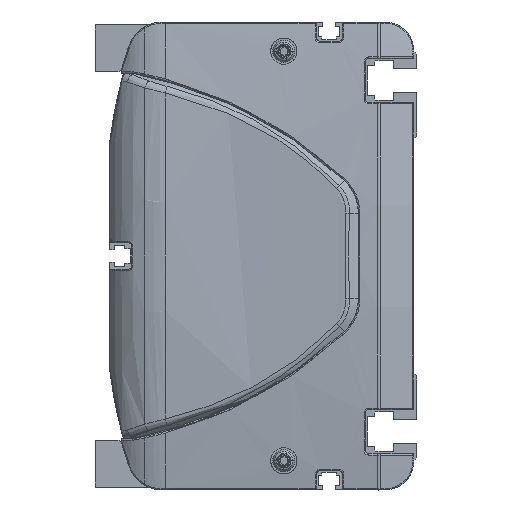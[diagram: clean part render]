
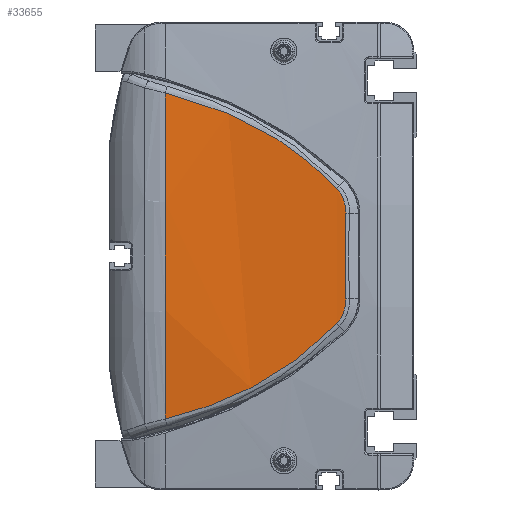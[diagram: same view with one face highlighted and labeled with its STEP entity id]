
A CAD part, left-side view. The second image highlights one B-rep face of the part: STEP entity #33655.
In plain terms, the highlighted cylindrical face has radius 600 mm (diameter 1200 mm), a partial arc.
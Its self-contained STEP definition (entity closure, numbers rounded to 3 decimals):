
#11361=CARTESIAN_POINT('',(-12.406,86.,
55.736));
#11362=CARTESIAN_POINT('',(-12.529,80.495,
54.41));
#11363=CARTESIAN_POINT('',(-12.828,69.636,
51.114));
#11364=CARTESIAN_POINT('',(-13.389,54.079,
44.179));
#11365=CARTESIAN_POINT('',(-14.01,39.709,
34.979));
#11366=CARTESIAN_POINT('',(-14.395,31.353,
27.243));
#11367=CARTESIAN_POINT('',(-14.555,27.451,
23.113));
#11369=CARTESIAN_POINT('',(-14.555,27.451,
23.113));
#11370=CARTESIAN_POINT('',(-14.598,26.394,
21.994));
#11371=CARTESIAN_POINT('',(-14.695,24.746,
19.315));
#11372=CARTESIAN_POINT('',(-14.783,24.276,
16.208));
#11373=CARTESIAN_POINT('',(-14.821,24.351,
14.67));
#11375=CARTESIAN_POINT('',(-14.821,24.351,
14.67));
#11376=CARTESIAN_POINT('',(-14.9,24.51,
11.413));
#11377=CARTESIAN_POINT('',(-15.007,24.721,
4.895));
#11378=CARTESIAN_POINT('',(-15.007,24.721,
-4.895));
#11379=CARTESIAN_POINT('',(-14.9,24.51,
-11.413));
#11380=CARTESIAN_POINT('',(-14.821,24.351,
-14.67));
#11382=CARTESIAN_POINT('',(-14.821,24.351,
-14.67));
#11383=CARTESIAN_POINT('',(-14.783,24.276,
-16.208));
#11384=CARTESIAN_POINT('',(-14.695,24.746,
-19.315));
#11385=CARTESIAN_POINT('',(-14.598,26.394,
-21.995));
#11386=CARTESIAN_POINT('',(-14.555,27.451,
-23.113));
#11388=CARTESIAN_POINT('',(-14.555,27.451,
-23.113));
#11389=CARTESIAN_POINT('',(-14.395,31.353,
-27.243));
#11390=CARTESIAN_POINT('',(-14.01,39.709,
-34.979));
#11391=CARTESIAN_POINT('',(-13.389,54.079,
-44.179));
#11392=CARTESIAN_POINT('',(-12.828,69.636,
-51.114));
#11393=CARTESIAN_POINT('',(-12.529,80.495,
-54.41));
#11394=CARTESIAN_POINT('',(-12.406,86.,
-55.736));
#11396=CARTESIAN_POINT('',(585.,86.,0.));
#11397=DIRECTION('',(0.,1.,0.));
#11398=DIRECTION('',(-0.996,0.,-0.093));
#11399=AXIS2_PLACEMENT_3D('',#11396,#11397,#11398);
#11412=CARTESIAN_POINT('',(-12.406,86.,
55.736));
#13414=VERTEX_POINT('',#11412);
#13415=CARTESIAN_POINT('',(-12.406,86.,
-55.736));
#13416=VERTEX_POINT('',#13415);
#13466=VERTEX_POINT('',#11367);
#13467=VERTEX_POINT('',#11373);
#13468=VERTEX_POINT('',#11380);
#13469=VERTEX_POINT('',#11386);
#33637=CARTESIAN_POINT('',(585.,87.45,0.));
#33638=DIRECTION('',(0.,-1.,0.));
#33639=DIRECTION('',(0.,0.,-1.));
#33640=AXIS2_PLACEMENT_3D('',#33637,#33638,#33639);
#33641=CYLINDRICAL_SURFACE('',#33640,600.);
#33643=ORIENTED_EDGE('',*,*,#33642,.T.);
#33645=ORIENTED_EDGE('',*,*,#33644,.T.);
#33646=ORIENTED_EDGE('',*,*,#33627,.T.);
#33648=ORIENTED_EDGE('',*,*,#33647,.T.);
#33650=ORIENTED_EDGE('',*,*,#33649,.T.);
#33652=ORIENTED_EDGE('',*,*,#33651,.T.);
#33653=EDGE_LOOP('',(#33643,#33645,#33646,#33648,#33650,#33652));
#33654=FACE_OUTER_BOUND('',#33653,.F.);
#33655=ADVANCED_FACE('',(#33654),#33641,.T.);
#11368=B_SPLINE_CURVE_WITH_KNOTS('',3,(#11361,#11362,#11363,#11364,#11365,
#11366,#11367),.UNSPECIFIED.,.F.,.F.,(4,1,1,1,4),(0.,0.25,0.5,0.75,
1.),.UNSPECIFIED.);
#11374=B_SPLINE_CURVE_WITH_KNOTS('',3,(#11369,#11370,#11371,#11372,#11373),
.UNSPECIFIED.,.F.,.F.,(4,1,4),(0.,0.5,1.),.UNSPECIFIED.);
#11381=B_SPLINE_CURVE_WITH_KNOTS('',3,(#11375,#11376,#11377,#11378,#11379,
#11380),.UNSPECIFIED.,.F.,.F.,(4,1,1,4),(0.,0.333,
0.667,1.),.UNSPECIFIED.);
#11387=B_SPLINE_CURVE_WITH_KNOTS('',3,(#11382,#11383,#11384,#11385,#11386),
.UNSPECIFIED.,.F.,.F.,(4,1,4),(0.,0.5,1.),.UNSPECIFIED.);
#11395=B_SPLINE_CURVE_WITH_KNOTS('',3,(#11388,#11389,#11390,#11391,#11392,
#11393,#11394),.UNSPECIFIED.,.F.,.F.,(4,1,1,1,4),(0.,0.25,0.5,0.75,
1.),.UNSPECIFIED.);
#11400=CIRCLE('',#11399,600.);
#33627=EDGE_CURVE('',#13467,#13468,#11381,.T.);
#33642=EDGE_CURVE('',#13414,#13466,#11368,.T.);
#33644=EDGE_CURVE('',#13466,#13467,#11374,.T.);
#33647=EDGE_CURVE('',#13468,#13469,#11387,.T.);
#33649=EDGE_CURVE('',#13469,#13416,#11395,.T.);
#33651=EDGE_CURVE('',#13416,#13414,#11400,.T.);
